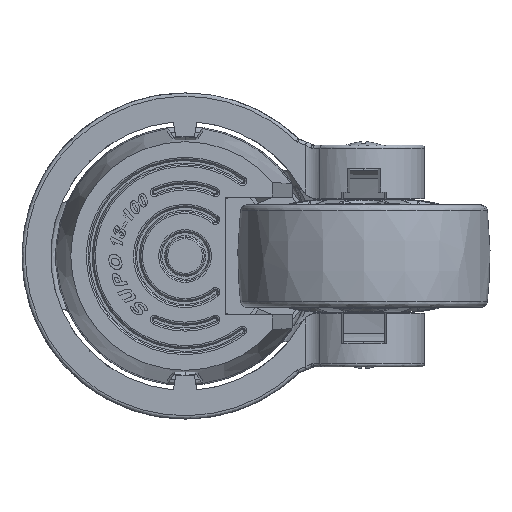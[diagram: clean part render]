
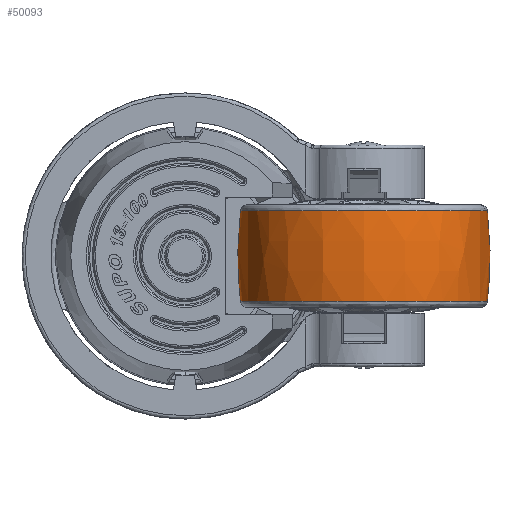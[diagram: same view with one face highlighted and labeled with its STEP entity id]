
A CAD part, front view. The second image highlights one B-rep face of the part: STEP entity #50093.
In plain terms, the highlighted free-form (B-spline) face has degree [3, 3] with [4, 4] control points.
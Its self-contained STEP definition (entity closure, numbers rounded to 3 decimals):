
#774 = DIRECTION ( 'NONE',  ( 0., 0., -1. ) ) ;
#993 = CARTESIAN_POINT ( 'NONE',  ( 53.2, -73., 13.481 ) ) ;
#1734 = CARTESIAN_POINT ( 'NONE',  ( 16.481, -73., 13.481 ) ) ;
#3588 =( BOUNDED_SURFACE ( )  B_SPLINE_SURFACE ( 3, 3, ( 
 ( #24592, #13243, #65664, #22349 ),
 ( #85630, #94814, #98025, #11304 ),
 ( #8081, #59944, #34270, #44898 ),
 ( #27827, #106619, #51397, #69066 ) ),
 .UNSPECIFIED., .F., .F., .F. ) 
 B_SPLINE_SURFACE_WITH_KNOTS ( ( 4, 4 ),
 ( 4, 4 ),
 ( 0.019, 0.981 ),
 ( 0., 1. ),
 .UNSPECIFIED. ) 
 GEOMETRIC_REPRESENTATION_ITEM ( )  RATIONAL_B_SPLINE_SURFACE ( (
 ( 1., 0.333, 0.333, 1.),
 ( 0.995, 0.332, 0.332, 0.995),
 ( 0.995, 0.332, 0.332, 0.995),
 ( 1., 0.333, 0.333, 1.) ) ) 
 REPRESENTATION_ITEM ( '' )  SURFACE ( )  );
#5769 = FACE_OUTER_BOUND ( 'NONE', #90605, .T. ) ;
#6174 = EDGE_CURVE ( 'NONE', #39444, #107499, #73766, .T. ) ;
#6798 = DIRECTION ( 'NONE',  ( 1., -0.006, 0. ) ) ;
#7717 = VERTEX_POINT ( 'NONE', #108738 ) ;
#8081 = CARTESIAN_POINT ( 'NONE',  ( 90.961, -73., -4.514 ) ) ;
#9318 = ORIENTED_EDGE ( 'NONE', *, *, #59218, .T. ) ;
#11304 = CARTESIAN_POINT ( 'NONE',  ( 15.439, -73., 4.514 ) ) ;
#12866 = ORIENTED_EDGE ( 'NONE', *, *, #16889, .T. ) ;
#13243 = CARTESIAN_POINT ( 'NONE',  ( 89.919, -146.439, 13.481 ) ) ;
#13768 = ORIENTED_EDGE ( 'NONE', *, *, #21413, .T. ) ;
#14805 = DIRECTION ( 'NONE',  ( 0., 0., 1. ) ) ;
#16405 = EDGE_CURVE ( 'NONE', #64913, #39444, #40780, .T. ) ;
#16761 = CARTESIAN_POINT ( 'NONE',  ( 89.919, -73.231, 13.481 ) ) ;
#16889 = EDGE_CURVE ( 'NONE', #80000, #64913, #24715, .T. ) ;
#18437 = DIRECTION ( 'NONE',  ( 1., -0.006, 0. ) ) ;
#21413 = EDGE_CURVE ( 'NONE', #107499, #7717, #36087, .T. ) ;
#22349 = CARTESIAN_POINT ( 'NONE',  ( 16.481, -73., 13.481 ) ) ;
#23951 = ORIENTED_EDGE ( 'NONE', *, *, #51519, .F. ) ;
#24592 = CARTESIAN_POINT ( 'NONE',  ( 89.919, -73., 13.481 ) ) ;
#24715 = CIRCLE ( 'NONE', #39194, 36.719 ) ;
#27827 = CARTESIAN_POINT ( 'NONE',  ( 89.919, -73., -13.481 ) ) ;
#28482 = ORIENTED_EDGE ( 'NONE', *, *, #16405, .T. ) ;
#34270 = CARTESIAN_POINT ( 'NONE',  ( 15.439, -148.523, -4.514 ) ) ;
#36087 = CIRCLE ( 'NONE', #61706, 36.719 ) ;
#37295 = AXIS2_PLACEMENT_3D ( 'NONE', #65283, #39535, #75554 ) ;
#37355 = DIRECTION ( 'NONE',  ( 0., 0., -1. ) ) ;
#39194 = AXIS2_PLACEMENT_3D ( 'NONE', #55430, #774, #18437 ) ;
#39444 = VERTEX_POINT ( 'NONE', #43202 ) ;
#39535 = DIRECTION ( 'NONE',  ( 0., 0., 1. ) ) ;
#40780 =( BOUNDED_CURVE ( )  B_SPLINE_CURVE ( 3, ( #1734, #70734, #45589, #70179 ),
 .UNSPECIFIED., .F., .T. ) 
 B_SPLINE_CURVE_WITH_KNOTS ( ( 4, 4 ),
 ( 0.019, 0.981 ),
 .UNSPECIFIED. ) 
 CURVE ( )  GEOMETRIC_REPRESENTATION_ITEM ( )  RATIONAL_B_SPLINE_CURVE ( ( 1., 0.995, 0.995, 1. ) ) 
 REPRESENTATION_ITEM ( '' )  );
#43202 = CARTESIAN_POINT ( 'NONE',  ( 16.481, -73., -13.481 ) ) ;
#44898 = CARTESIAN_POINT ( 'NONE',  ( 15.439, -73., -4.514 ) ) ;
#45589 = CARTESIAN_POINT ( 'NONE',  ( 15.439, -73., -4.514 ) ) ;
#47451 = CARTESIAN_POINT ( 'NONE',  ( 89.919, -73., 13.481 ) ) ;
#50093 = ADVANCED_FACE ( 'NONE', ( #5769 ), #3588, .F. ) ;
#51397 = CARTESIAN_POINT ( 'NONE',  ( 16.481, -146.439, -13.481 ) ) ;
#51519 = EDGE_CURVE ( 'NONE', #54629, #7717, #66151, .T. ) ;
#54629 = VERTEX_POINT ( 'NONE', #98387 ) ;
#55430 = CARTESIAN_POINT ( 'NONE',  ( 53.2, -73., 13.481 ) ) ;
#59218 = EDGE_CURVE ( 'NONE', #54629, #80000, #91486, .T. ) ;
#59944 = CARTESIAN_POINT ( 'NONE',  ( 90.961, -148.523, -4.514 ) ) ;
#61706 = AXIS2_PLACEMENT_3D ( 'NONE', #75815, #14805, #6798 ) ;
#64680 = CARTESIAN_POINT ( 'NONE',  ( 89.919, -73.231, -13.481 ) ) ;
#64913 = VERTEX_POINT ( 'NONE', #69787 ) ;
#65283 = CARTESIAN_POINT ( 'NONE',  ( 53.2, -73., -13.481 ) ) ;
#65664 = CARTESIAN_POINT ( 'NONE',  ( 16.481, -146.439, 13.481 ) ) ;
#66151 =( BOUNDED_CURVE ( )  B_SPLINE_CURVE ( 3, ( #47451, #72559, #97754, #98310 ),
 .UNSPECIFIED., .F., .F. ) 
 B_SPLINE_CURVE_WITH_KNOTS ( ( 4, 4 ),
 ( 0.019, 0.981 ),
 .UNSPECIFIED. ) 
 CURVE ( )  GEOMETRIC_REPRESENTATION_ITEM ( )  RATIONAL_B_SPLINE_CURVE ( ( 1., 0.995, 0.995, 1. ) ) 
 REPRESENTATION_ITEM ( '' )  );
#67708 = AXIS2_PLACEMENT_3D ( 'NONE', #993, #37355, #98516 ) ;
#69066 = CARTESIAN_POINT ( 'NONE',  ( 16.481, -73., -13.481 ) ) ;
#69619 = ORIENTED_EDGE ( 'NONE', *, *, #6174, .T. ) ;
#69787 = CARTESIAN_POINT ( 'NONE',  ( 16.481, -73., 13.481 ) ) ;
#70179 = CARTESIAN_POINT ( 'NONE',  ( 16.481, -73., -13.481 ) ) ;
#70734 = CARTESIAN_POINT ( 'NONE',  ( 15.439, -73., 4.514 ) ) ;
#72559 = CARTESIAN_POINT ( 'NONE',  ( 90.961, -73., 4.514 ) ) ;
#73766 = CIRCLE ( 'NONE', #37295, 36.719 ) ;
#75554 = DIRECTION ( 'NONE',  ( 1., -0.006, 0. ) ) ;
#75815 = CARTESIAN_POINT ( 'NONE',  ( 53.2, -73., -13.481 ) ) ;
#80000 = VERTEX_POINT ( 'NONE', #16761 ) ;
#85630 = CARTESIAN_POINT ( 'NONE',  ( 90.961, -73., 4.514 ) ) ;
#90605 = EDGE_LOOP ( 'NONE', ( #9318, #12866, #28482, #69619, #13768, #23951 ) ) ;
#91486 = CIRCLE ( 'NONE', #67708, 36.719 ) ;
#94814 = CARTESIAN_POINT ( 'NONE',  ( 90.961, -148.523, 4.514 ) ) ;
#97754 = CARTESIAN_POINT ( 'NONE',  ( 90.961, -73., -4.514 ) ) ;
#98025 = CARTESIAN_POINT ( 'NONE',  ( 15.439, -148.523, 4.514 ) ) ;
#98310 = CARTESIAN_POINT ( 'NONE',  ( 89.919, -73., -13.481 ) ) ;
#98387 = CARTESIAN_POINT ( 'NONE',  ( 89.919, -73., 13.481 ) ) ;
#98516 = DIRECTION ( 'NONE',  ( 1., -0.006, 0. ) ) ;
#106619 = CARTESIAN_POINT ( 'NONE',  ( 89.919, -146.439, -13.481 ) ) ;
#107499 = VERTEX_POINT ( 'NONE', #64680 ) ;
#108738 = CARTESIAN_POINT ( 'NONE',  ( 89.919, -73., -13.481 ) ) ;
